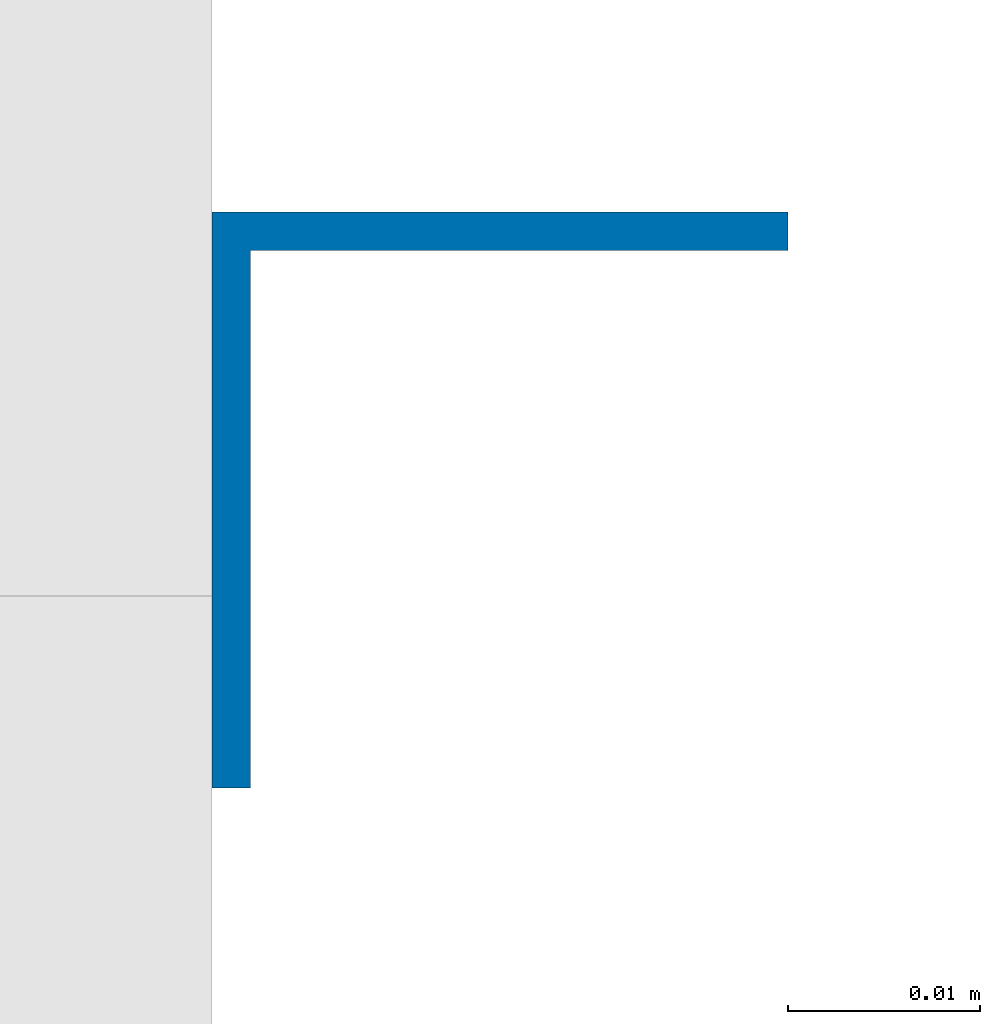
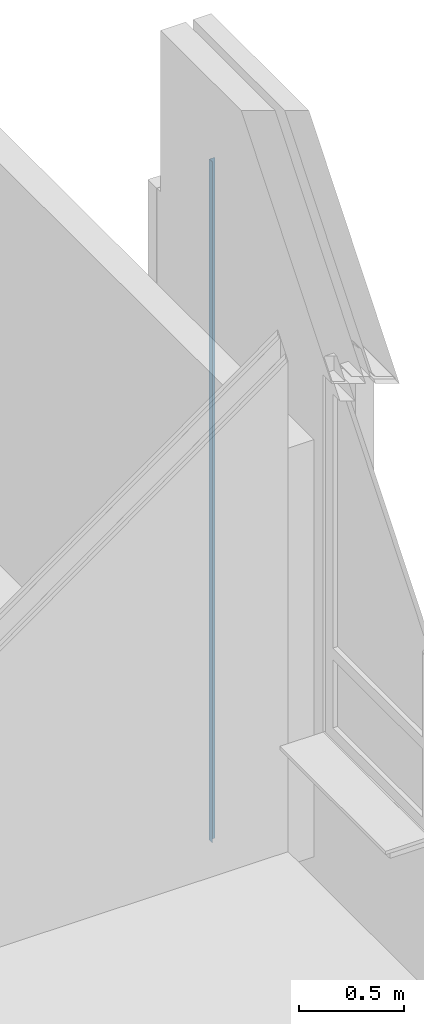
# One storey, part 27 of 321: 1 column.
"""IFC2X3 building model written with IfcOpenShell, lengths in millimetres."""

import ifcopenshell
import ifcopenshell.guid

model = None  # the IFC model being written
_history = None  # IfcOwnerHistory: only IFC2X3 demands one
_inside = {}  # id of a spatial element -> (the spatial element, [elements in it])
_under = {}  # id of a project, library or spatial element -> (it, [spatial elements below it])
_declared = {}  # id of a project -> (the project, [libraries it declares])
_typed = {}  # id of a type object -> (the type object, [elements of that type])
_made_of = {}  # id of a material, layer set ... -> (it, [elements and type objects made of it])


def new_model(schema):
    """Start an empty IFC model of exactly this schema.

    Asked for "IFC4X3", IfcOpenShell would pick the latest addendum, in which some entities
    have other attributes; the version numbers below select the first issue.
    IFC2X3 requires an IfcOwnerHistory on every rooted entity: one is made here for all.
    """
    global model, _history
    if schema == "IFC4X3":
        model = ifcopenshell.file(schema_version=(4, 3, 0, 0))
    else:
        model = ifcopenshell.file(schema=schema)
    _inside.clear()
    _under.clear()
    _declared.clear()
    _typed.clear()
    _made_of.clear()
    _history = None
    if model.schema == "IFC2X3":
        org = make("IfcOrganization", Name="unknown")
        user = make(
            "IfcPersonAndOrganization",
            ThePerson=make("IfcPerson", FamilyName="unknown"),
            TheOrganization=org,
        )
        app = make(
            "IfcApplication",
            ApplicationDeveloper=org,
            Version="unknown",
            ApplicationFullName="unknown",
            ApplicationIdentifier="unknown",
        )
        _history = make(
            "IfcOwnerHistory",
            OwningUser=user,
            OwningApplication=app,
            ChangeAction="ADDED",
            CreationDate=0,
        )
    return model


def make(cls, **values):
    """One entity of the class cls with the attributes given. An attribute that is None is left unset."""
    return model.create_entity(
        cls, **{name: value for name, value in values.items() if value is not None}
    )


def entity(cls, *values):
    """Any entity or typed value of the class cls, its attributes in the order of the schema. None: left unset."""
    e = model.create_entity(cls)
    for i, value in enumerate(values):
        if value is not None:
            e[i] = value
    return e


def rooted(cls, **values):
    """An entity with a GlobalId (a new one), such as an element, a storey or a relation."""
    return make(cls, GlobalId=ifcopenshell.guid.new(), OwnerHistory=_history, **values)


def si_unit(unit_type, name, prefix=None):
    """IfcSIUnit, for example si_unit("LENGTHUNIT", "METRE", prefix="MILLI")."""
    return make("IfcSIUnit", UnitType=unit_type, Prefix=prefix, Name=name)


def converted_unit(unit_type, name, factor, base, dimensions=None, offset=None):
    """IfcConversionBasedUnit, such as the inch: factor (a typed value) times the base unit."""
    return make(
        "IfcConversionBasedUnit"
        if offset is None
        else "IfcConversionBasedUnitWithOffset",
        ConversionOffset=offset,
        Dimensions=None
        if dimensions is None
        else entity("IfcDimensionalExponents", *dimensions),
        UnitType=unit_type,
        Name=name,
        ConversionFactor=make(
            "IfcMeasureWithUnit", ValueComponent=factor, UnitComponent=base
        ),
    )


def derived_unit(unit_type, elements):
    """IfcDerivedUnit: a product of units, each with its exponent."""
    return make(
        "IfcDerivedUnit",
        Elements=[
            make("IfcDerivedUnitElement", Unit=unit, Exponent=power)
            for unit, power in elements
        ],
        UnitType=unit_type,
    )


def money_unit(currency):
    """IfcMonetaryUnit."""
    return make("IfcMonetaryUnit", Currency=currency)


def assignment(units):
    """IfcUnitAssignment: the units of a project."""
    return None if units is None else make("IfcUnitAssignment", Units=units)


def point(xyz):
    """IfcCartesianPoint."""
    return None if xyz is None else make("IfcCartesianPoint", Coordinates=xyz)


def direction(xyz):
    """IfcDirection."""
    return None if xyz is None else make("IfcDirection", DirectionRatios=xyz)


def frame(location, z_axis=None, x_axis=None):
    """IfcAxis2Placement3D, a coordinate frame: its origin and axes. An axis left out is left unset."""
    return make(
        "IfcAxis2Placement3D",
        Location=point(location),
        Axis=direction(z_axis),
        RefDirection=direction(x_axis),
    )


def origin_with_axes():
    """The frame at (0, 0, 0) with the z axis (0, 0, 1) and the x axis (1, 0, 0) written out."""
    return frame((0.0, 0.0, 0.0), z_axis=(0.0, 0.0, 1.0), x_axis=(1.0, 0.0, 0.0))


def place(relative_to, where):
    """IfcLocalPlacement: puts the frame where relative to a parent placement (None: the world)."""
    return make(
        "IfcLocalPlacement", PlacementRelTo=relative_to, RelativePlacement=where
    )


def context(
    kind, dimensions, precision=None, world=None, true_north=None, identifier=None
):
    """IfcGeometricRepresentationContext, for example the 3D "Model" context."""
    return make(
        "IfcGeometricRepresentationContext",
        ContextIdentifier=identifier,
        ContextType=kind,
        CoordinateSpaceDimension=dimensions,
        Precision=precision,
        WorldCoordinateSystem=world,
        TrueNorth=true_north,
    )


def subcontext(parent, identifier, kind, view, scale=None):
    """IfcGeometricRepresentationSubContext, for example "Body" below "Model"."""
    return make(
        "IfcGeometricRepresentationSubContext",
        ContextIdentifier=identifier,
        ContextType=kind,
        ParentContext=parent,
        TargetScale=scale,
        TargetView=view,
    )


def project(units=None, contexts=None):
    """IfcProject with its units and contexts."""
    return rooted(
        "IfcProject",
        Name="project",
        RepresentationContexts=contexts,
        UnitsInContext=assignment(units),
    )


def spatial(cls, under=None, at=None, **own):
    """A site, building, storey or space (cls), placed at a placement, below another one or the project."""
    s = rooted(cls, ObjectPlacement=at, **own)
    if under is not None:
        _under.setdefault(under.id(), (under, []))[1].append(s)
    return s


def faces_of(points, faces, orient=None, outer=None):
    """IfcFace entities. A face is a list of loops; a loop is a list of indices into points, from 0.

    orient and outer hold one flag for each loop. By default every Orientation is true, the
    first loop of a face is its IfcFaceOuterBound and the others are IfcFaceBound.
    """
    made = []
    for i, loops in enumerate(faces):
        bounds = []
        for j, loop in enumerate(loops):
            is_outer = j == 0 if outer is None else outer[i][j]
            bounds.append(
                make(
                    "IfcFaceOuterBound" if is_outer else "IfcFaceBound",
                    Bound=make("IfcPolyLoop", Polygon=[points[k] for k in loop]),
                    Orientation=True if orient is None else orient[i][j],
                )
            )
        made.append(make("IfcFace", Bounds=bounds))
    return made


def faceted_brep(points, faces, orient=None, outer=None, voids=None):
    """IfcFacetedBrep: a solid bounded by flat faces; with voids (closed shells), ...WithVoids."""
    shared = [point(p) for p in points]
    hull = make("IfcClosedShell", CfsFaces=faces_of(shared, faces, orient, outer))
    if voids is None:
        return make("IfcFacetedBrep", Outer=hull)
    return make(
        "IfcFacetedBrepWithVoids",
        Outer=hull,
        Voids=[
            make(cls, CfsFaces=faces_of(shared, fs, o, b)) for cls, fs, o, b in voids
        ],
    )


def shape(context_of_items, identifier, shape_type, items):
    """IfcShapeRepresentation: the items that make up one representation, for example the "Body"."""
    return make(
        "IfcShapeRepresentation",
        ContextOfItems=context_of_items,
        RepresentationIdentifier=identifier,
        RepresentationType=shape_type,
        Items=items,
    )


def material(Name=None, Category=None):
    """IfcMaterial."""
    return make("IfcMaterial", Name=Name, Category=Category)


def made_of(thing, what):
    """Note that an element or type object is made of a material, layer set ...; save() writes the relation."""
    if what is not None:
        _made_of.setdefault(what.id(), (what, []))[1].append(thing)
    return thing


def type_object(cls, material=None, **own):
    """A type object (cls), such as IfcWallType, which elements share."""
    return made_of(rooted(cls, **own), material)


def element(
    cls,
    number,
    at=None,
    inside=None,
    cuts=None,
    type_object=None,
    material=None,
    context=None,
    identifier="Body",
    shape_type=None,
    held_by="IfcProductDefinitionShape",
    body=None,
    shapes=None,
    **own,
):
    """One element of the class cls, such as IfcWall. Its Tag is "e" and its number.

    at: its placement. inside: the storey or other place that contains it. cuts: it is an
    opening in that element (IfcRelVoidsElement). A single representation is given by context,
    identifier, shape_type and body (its items); several are given by shapes. held_by: the class
    of the entity that holds the representations. save() writes the other relations.
    """
    e = rooted(cls, Tag="e%d" % number, ObjectPlacement=at, **own)
    if body is not None:
        shapes = [shape(context, identifier, shape_type, body)]
    if shapes is not None:
        e.Representation = make(held_by, Representations=shapes)
    if inside is not None:
        _inside.setdefault(inside.id(), (inside, []))[1].append(e)
    if cuts is not None:
        rooted(
            "IfcRelVoidsElement", RelatingBuildingElement=cuts, RelatedOpeningElement=e
        )
    if type_object is not None:
        _typed.setdefault(type_object.id(), (type_object, []))[1].append(e)
    return made_of(e, material)


def aggregate(whole, parts):
    """IfcRelAggregates: a whole, such as a stair, and the parts it consists of."""
    return rooted("IfcRelAggregates", RelatingObject=whole, RelatedObjects=parts)


def save(model, path):
    """Write the relations noted so far, then the file.

    IfcRelAggregates (storeys below a building ...), IfcRelContainedInSpatialStructure (elements
    in a storey), IfcRelDefinesByType, IfcRelAssociatesMaterial and IfcRelDeclares: one each for
    every whole, place, type object, material and project.
    """
    for whole, parts in _under.values():
        aggregate(whole, parts)
    for where, things in _inside.values():
        rooted(
            "IfcRelContainedInSpatialStructure",
            RelatedElements=things,
            RelatingStructure=where,
        )
    for kind, things in _typed.values():
        rooted("IfcRelDefinesByType", RelatedObjects=things, RelatingType=kind)
    for what, things in _made_of.values():
        rooted("IfcRelAssociatesMaterial", RelatedObjects=things, RelatingMaterial=what)
    for by, libraries in _declared.values():
        rooted("IfcRelDeclares", RelatingContext=by, RelatedDefinitions=libraries)
    model.write(path)


model = new_model("IFC2X3")

# Units and contexts
model_context = context("Model", 3, precision=0.01, world=origin_with_axes(), true_north=direction((0.0, 1.0)))
plan_context = context("Plan", 3, precision=0.01, world=origin_with_axes(), true_north=direction((0.0, 1.0)))
body_context = subcontext(model_context, "Body", "Model", "MODEL_VIEW")
ifc_project = project(units=[si_unit("LENGTHUNIT", "METRE", prefix="MILLI"), si_unit("AREAUNIT", "SQUARE_METRE"), si_unit("VOLUMEUNIT", "CUBIC_METRE"), converted_unit("PLANEANGLEUNIT", "DEGREE", entity("IfcPlaneAngleMeasure", 0.0174532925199), si_unit("PLANEANGLEUNIT", "RADIAN"), dimensions=[0, 0, 0, 0, 0, 0, 0]), money_unit("EUR"), converted_unit("TIMEUNIT", "Year", entity("IfcTimeMeasure", 31556926.0), si_unit("TIMEUNIT", "SECOND"), dimensions=[0, 0, 1, 0, 0, 0, 0]), si_unit("MASSUNIT", "GRAM", prefix="KILO"), si_unit("THERMODYNAMICTEMPERATUREUNIT", "DEGREE_CELSIUS"), si_unit("LUMINOUSINTENSITYUNIT", "LUMEN"), si_unit("ENERGYUNIT", "JOULE", prefix="MEGA"), derived_unit("THERMALCONDUCTANCEUNIT", [(si_unit("POWERUNIT", "WATT"), 1), (si_unit("LENGTHUNIT", "METRE"), -1), (si_unit("THERMODYNAMICTEMPERATUREUNIT", "KELVIN"), -1)]), derived_unit("SPECIFICHEATCAPACITYUNIT", [(si_unit("ENERGYUNIT", "JOULE"), 1), (si_unit("MASSUNIT", "GRAM", prefix="KILO"), -1), (si_unit("THERMODYNAMICTEMPERATUREUNIT", "KELVIN"), -1)]), derived_unit("MASSDENSITYUNIT", [(si_unit("MASSUNIT", "GRAM", prefix="KILO"), 1), (si_unit("VOLUMEUNIT", "CUBIC_METRE"), -1)])], contexts=[model_context, plan_context])

# Site, building, storey
site_placement = place(None, origin_with_axes())
site = spatial("IfcSite", under=ifc_project, at=site_placement, Name="Fortuinstraat Woensdrecht", CompositionType="ELEMENT")
building_placement = place(site_placement, origin_with_axes())
building = spatial("IfcBuilding", under=site, at=building_placement, Name="IKC Fortuna", CompositionType="ELEMENT")
storey_placement = place(building_placement, frame((0.0, 0.0, 4000.0), z_axis=(0.0, 0.0, 1.0), x_axis=(1.0, 0.0, 0.0)))
storey = spatial("IfcBuildingStorey", under=building, at=storey_placement, Name="01 eerste verdieping", CompositionType="ELEMENT", Elevation=4000.0)

# Column
ifc_material = material(Name="Metaal - Staal C")
column_type = type_object("IfcColumnType", Name="L30/2 30 x 30", PredefinedType="COLUMN")
column_placement = place(storey_placement, frame((35113.4270654, 20896.2966283, -990.0), z_axis=(0.0, 0.0, 1.0), x_axis=(0.0, -1.0, 0.0)))
element("IfcColumn", 1, at=column_placement, inside=storey, type_object=column_type, material=ifc_material, Name="28_Kolom_omtimmering kolom", ObjectType="COLUMN", context=body_context, shape_type="Brep", body=[
    faceted_brep([(0.0, 0.0, 3969.99999804), (0.0, 0.0, 0.0), (30.0, 0.0, 0.0), (30.0, 0.0, 3969.99999804), (0.0, 30.0, 3969.99999804), (0.0, 30.0, 0.0), (2.0, 30.0, 0.0), (2.0, 2.0, 0.0), (30.0, 2.0, 0.0), (30.0, 2.0, 3969.99999804), (2.0, 2.0, 3969.99999804), (2.0, 30.0, 3969.99999804)], [[[0, 1, 2, 3]], [[4, 5, 1, 0]], [[2, 1, 5, 6, 7, 8]], [[3, 2, 8, 9]], [[4, 0, 3, 9, 10, 11]], [[11, 6, 5, 4]], [[10, 7, 6, 11]], [[9, 8, 7, 10]]]),
])

save(model, "model.ifc")
